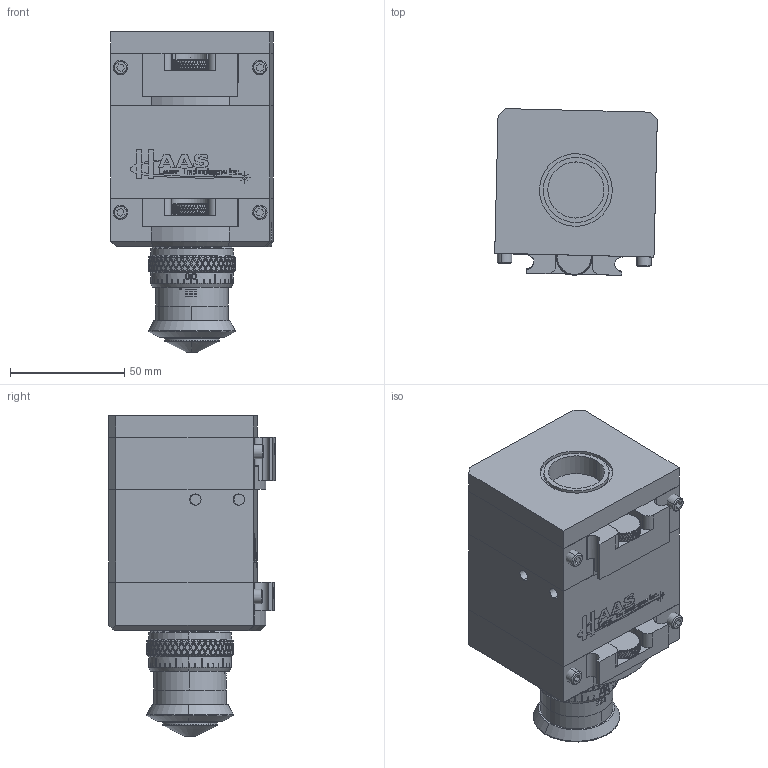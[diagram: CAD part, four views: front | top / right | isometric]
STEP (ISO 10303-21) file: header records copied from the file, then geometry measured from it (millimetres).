
FILE_DESCRIPTION (( 'STEP AP214' ), '1' );
FILE_NAME ('G6-25-28-63-127.STEP', '2016-11-02T18:11:16', ( '' ), ( '' ), 'SwSTEP 2.0', 'SolidWorks 2016', '' );
FILE_SCHEMA (( 'AUTOMOTIVE_DESIGN' ));
Length unit declared in the file: inch
Products named in the file (1): G6-25-28-63-127
Bounding box: 71.3 x 73.09 x 140.66 mm (x, y, z)
Volume: 469218 mm3; surface area: 109029.4 mm2
Topology: 22 solids, 22 shells, 4104 faces, 10995 edges, 7025 vertices
Faces by surface type: plane 3130, cylinder 836, cone 83, bspline 41, sphere 8, torus 6
Entity records: 129408 total; most frequent: CARTESIAN_POINT 35011, ORIENTED_EDGE 21990, DIRECTION 16724, EDGE_CURVE 10995, VERTEX_POINT 7025, LINE 6348, VECTOR 6348, AXIS2_PLACEMENT_3D 5188
